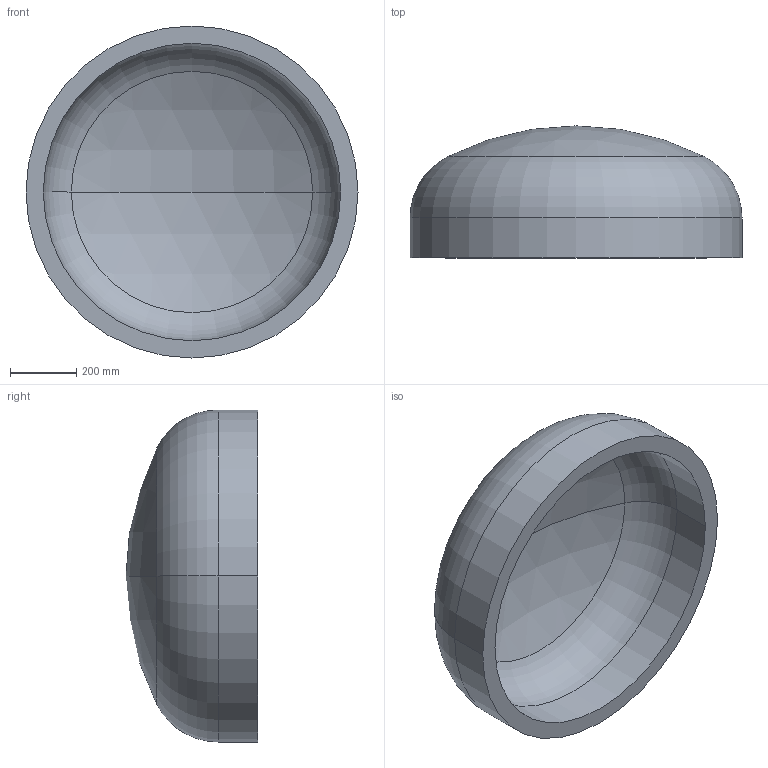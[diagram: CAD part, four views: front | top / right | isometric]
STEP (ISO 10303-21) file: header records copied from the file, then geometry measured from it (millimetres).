
FILE_DESCRIPTION (( 'STEP AP203' ), '1' );
FILE_NAME ('DIN 28013 Korbbogenform_-_Boden DIN 28013 - 1000 x 120 - I - s=52.step', '2016-07-01T08:51:04', ( '' ), ( '' ), 'SwSTEP 2.0', 'SolidWorks 2013', '' );
FILE_SCHEMA (( 'CONFIG_CONTROL_DESIGN' ));
Length unit declared in the file: millimetre
Products named in the file (1): DIN 28013 Korbbogenform_-_Boden DIN 28013 - 1000 x 120 - I - s=52
Bounding box: 1000 x 397.39 x 1000 mm (x, y, z)
Volume: 71567992.9 mm3; surface area: 2913145.7 mm2
Topology: 1 solids, 1 shells, 13 faces, 24 edges, 14 vertices
Faces by surface type: torus 4, cylinder 4, sphere 4, plane 1
Entity records: 407 total; most frequent: DIRECTION 72, CARTESIAN_POINT 52, ORIENTED_EDGE 48, AXIS2_PLACEMENT_3D 34, EDGE_CURVE 24, CIRCLE 20, EDGE_LOOP 14, VERTEX_POINT 14
